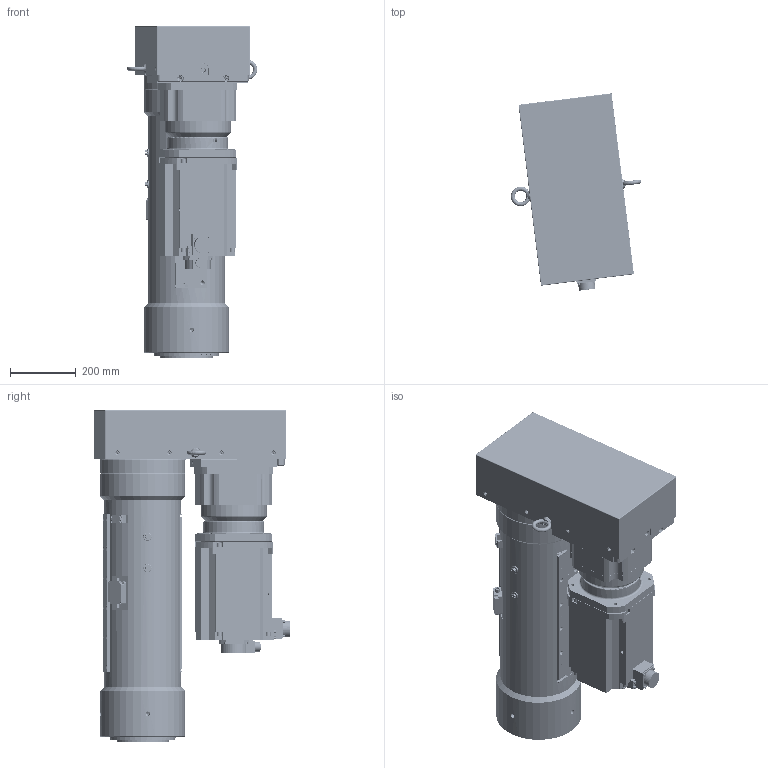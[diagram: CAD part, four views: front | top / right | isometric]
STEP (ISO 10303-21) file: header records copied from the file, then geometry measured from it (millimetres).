
FILE_DESCRIPTION( ('This file contains a STEP AP42 implementation' ,'as created by ZW3D STEP Interface translator.') ,'2;1' );
FILE_NAME( 'OACIS-DC-P200-400-125_V20.01.stp' ,'25 716. 93438', (''), ('ZWCAD Software Co.'), 'Version 1.0', 'ZW3D to STEP translator', '' );
FILE_SCHEMA(('AUTOMOTIVE_DESIGN { 1 0 10303 214 1 1 1 1 }'));
Length unit declared in the file: millimetre
Products named in the file (1): 0
Bounding box: 397.87 x 601.2 x 1013.26 mm (x, y, z)
Volume: 78483619.2 mm3; surface area: 6487902.9 mm2
Topology: 56 solids, 83 shells, 3833 faces, 9863 edges, 6338 vertices
Faces by surface type: cylinder 1772, plane 1397, cone 447, torus 193, bspline 21, sphere 3
Full cylindrical faces by diameter (mm): 4 x6, 4.2 x36, 4.3 x11, 4.5 x4, 5 x24, 5.3 x6, 5.5 x24, 6 x12, 6.4 x22, 6.647 x4, 6.8 x34, 8 x4, 8.4 x4, 8.5 x26, 9 x7, 10 x18, 10.2 x24, 10.5 x4, 12 x1, 13 x30, 14 x71, 15 x4, 16 x12, 16.5 x4, 17.5 x24, 18 x6, 20 x12, 25.4 x2, 30 x2, 35 x2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
Entity records: 142335 total; most frequent: CARTESIAN_POINT 42728, DIRECTION 20371, ORIENTED_EDGE 19340, EDGE_CURVE 9706, AXIS2_PLACEMENT_3D 7714, VERTEX_POINT 6336, VECTOR 4943, LINE 4943
